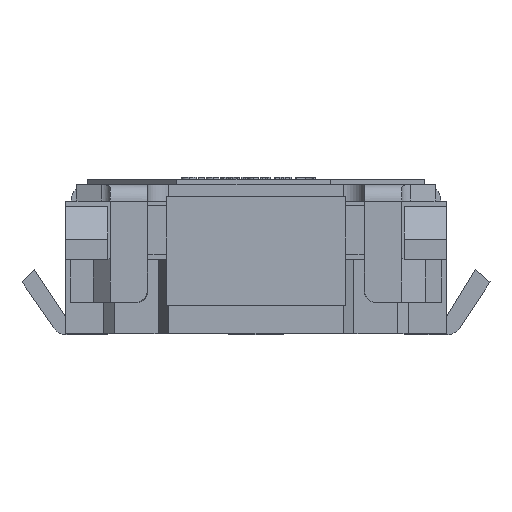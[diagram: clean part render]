
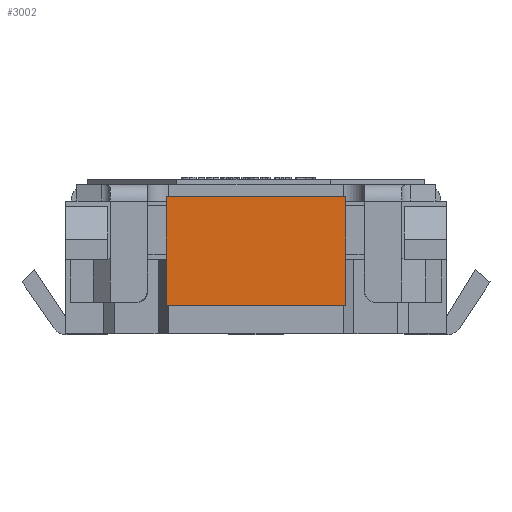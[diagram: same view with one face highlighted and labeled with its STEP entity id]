
A CAD part, front view. The second image highlights one B-rep face of the part: STEP entity #3002.
In plain terms, the highlighted planar face has unit normal (0, -1, 0).
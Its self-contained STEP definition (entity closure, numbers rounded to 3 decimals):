
#310 = EDGE_CURVE ( 'NONE', #2251, #10619, #16932, .T. ) ;
#353 = CARTESIAN_POINT ( 'NONE',  ( -9.358, 5.584, 0.26 ) ) ;
#2251 = VERTEX_POINT ( 'NONE', #4258 ) ;
#2588 = VERTEX_POINT ( 'NONE', #21224 ) ;
#2887 = CARTESIAN_POINT ( 'NONE',  ( -7.708, 5.584, 1.16 ) ) ;
#3002 = ADVANCED_FACE ( 'NONE', ( #12799 ), #6924, .F. ) ;
#3828 = LINE ( 'NONE', #11159, #10346 ) ;
#4175 = VECTOR ( 'NONE', #5779, 1000. ) ;
#4258 = CARTESIAN_POINT ( 'NONE',  ( -7.708, 5.584, 0.26 ) ) ;
#5084 = VECTOR ( 'NONE', #23670, 1000. ) ;
#5250 = DIRECTION ( 'NONE',  ( 0., 1., 0. ) ) ;
#5779 = DIRECTION ( 'NONE',  ( -1., 0., 0. ) ) ;
#6112 = EDGE_LOOP ( 'NONE', ( #15386, #13359, #19852, #12986 ) ) ;
#6924 = PLANE ( 'NONE',  #21320 ) ;
#7619 = VERTEX_POINT ( 'NONE', #19022 ) ;
#9191 = CARTESIAN_POINT ( 'NONE',  ( -9.358, 5.584, 1.16 ) ) ;
#10346 = VECTOR ( 'NONE', #13193, 1000. ) ;
#10619 = VERTEX_POINT ( 'NONE', #353 ) ;
#11159 = CARTESIAN_POINT ( 'NONE',  ( -9.358, 5.584, 1.26 ) ) ;
#12012 = LINE ( 'NONE', #2887, #20729 ) ;
#12482 = DIRECTION ( 'NONE',  ( 0., 0., -1. ) ) ;
#12683 = LINE ( 'NONE', #9191, #5084 ) ;
#12799 = FACE_OUTER_BOUND ( 'NONE', #6112, .T. ) ;
#12986 = ORIENTED_EDGE ( 'NONE', *, *, #17143, .F. ) ;
#13193 = DIRECTION ( 'NONE',  ( 1., 0., 0. ) ) ;
#13359 = ORIENTED_EDGE ( 'NONE', *, *, #310, .F. ) ;
#15386 = ORIENTED_EDGE ( 'NONE', *, *, #20874, .F. ) ;
#16932 = LINE ( 'NONE', #18261, #4175 ) ;
#17143 = EDGE_CURVE ( 'NONE', #7619, #2588, #3828, .T. ) ;
#18261 = CARTESIAN_POINT ( 'NONE',  ( -7.708, 5.584, 0.26 ) ) ;
#19022 = CARTESIAN_POINT ( 'NONE',  ( -9.358, 5.584, 1.26 ) ) ;
#19852 = ORIENTED_EDGE ( 'NONE', *, *, #22174, .F. ) ;
#20729 = VECTOR ( 'NONE', #12482, 1000. ) ;
#20874 = EDGE_CURVE ( 'NONE', #10619, #7619, #12683, .T. ) ;
#21224 = CARTESIAN_POINT ( 'NONE',  ( -7.708, 5.584, 1.26 ) ) ;
#21320 = AXIS2_PLACEMENT_3D ( 'NONE', #23340, #5250, #23562 ) ;
#22174 = EDGE_CURVE ( 'NONE', #2588, #2251, #12012, .T. ) ;
#23340 = CARTESIAN_POINT ( 'NONE',  ( -10.239, 5.584, 0.71 ) ) ;
#23562 = DIRECTION ( 'NONE',  ( 1., 0., 0. ) ) ;
#23670 = DIRECTION ( 'NONE',  ( 0., 0., 1. ) ) ;
